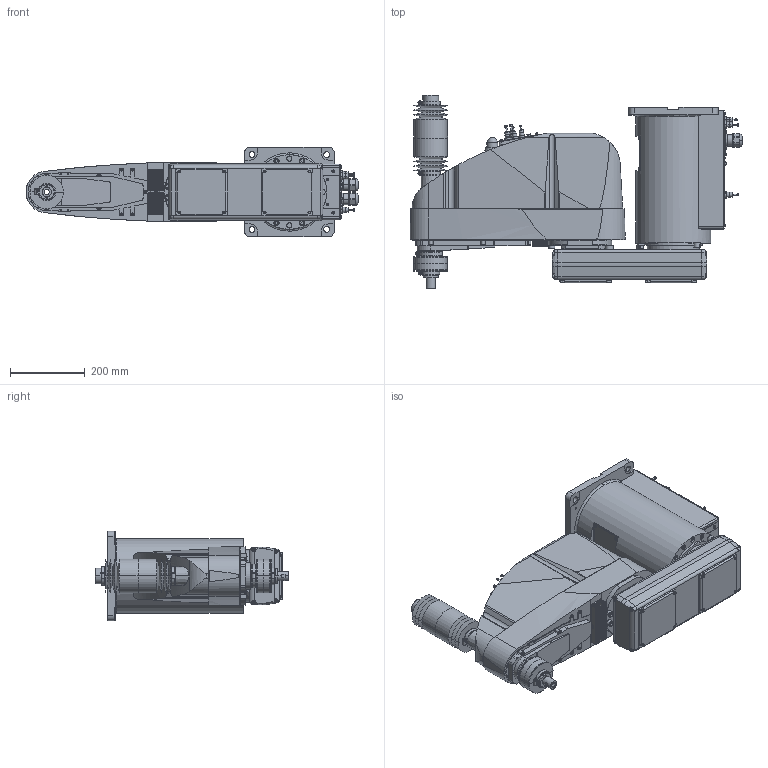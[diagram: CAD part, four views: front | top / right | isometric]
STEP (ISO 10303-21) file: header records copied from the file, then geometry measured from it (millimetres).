
FILE_DESCRIPTION( ( '' ), '1' );
FILE_NAME( '//expscmdclustefs.cadenas.external/client_exchange/iodir/jobs/output/wkb51512611_no0/STEP/G10_651PR_2_03.stp', '2012-11-22T15:39:36', ( '' ), ( '' ), ' ', ' ', ' ' );
FILE_SCHEMA( ( 'CONFIG_CONTROL_DESIGN' ) );
Length unit declared in the file: millimetre
Products named in the file (8): 1; 2; 3; 4; 5; 6; 7; 8
Bounding box: 889.5 x 518.5 x 240 mm (x, y, z)
Volume: 39304261.9 mm3; surface area: 1579285 mm2
Topology: 8 solids, 10 shells, 2235 faces, 5425 edges, 3486 vertices
Faces by surface type: plane 1176, cylinder 729, cone 298, torus 31, sphere 1
Entity records: 67488 total; most frequent: CARTESIAN_POINT 13403, DIRECTION 11569, ORIENTED_EDGE 10818, EDGE_CURVE 5409, AXIS2_PLACEMENT_3D 4079, VERTEX_POINT 3486, LINE 3411, VECTOR 3411
